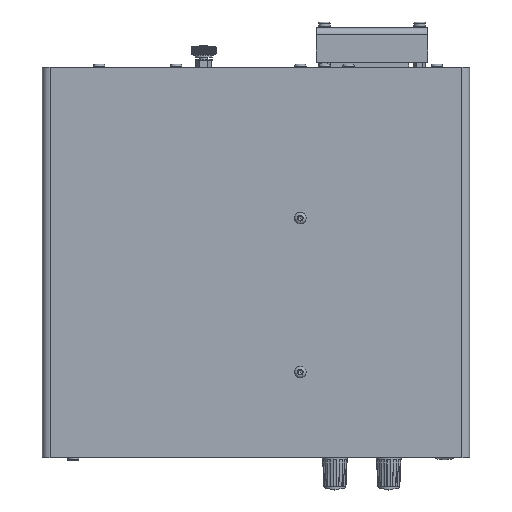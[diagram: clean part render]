
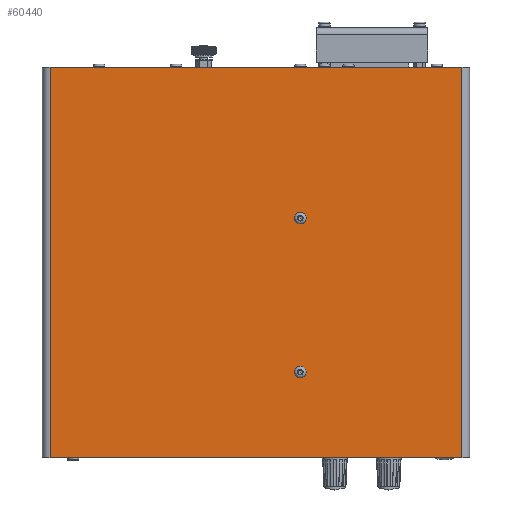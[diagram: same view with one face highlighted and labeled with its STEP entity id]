
A CAD part, top view. The second image highlights one B-rep face of the part: STEP entity #60440.
In plain terms, the highlighted planar face has unit normal (0, 0, 1).
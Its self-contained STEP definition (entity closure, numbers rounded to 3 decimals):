
#3255=FACE_BOUND('',#10944,.T.);
#3256=FACE_BOUND('',#10945,.T.);
#4689=CIRCLE('',#64868,3.);
#4693=CIRCLE('',#64874,3.);
#7288=FACE_OUTER_BOUND('',#10943,.T.);
#10943=EDGE_LOOP('',(#42855,#42856,#42857,#42858));
#10944=EDGE_LOOP('',(#42859));
#10945=EDGE_LOOP('',(#42860));
#15340=LINE('',#94087,#19887);
#15343=LINE('',#94098,#19890);
#15346=LINE('',#94107,#19893);
#15348=LINE('',#94111,#19895);
#19887=VECTOR('',#73828,10.);
#19890=VECTOR('',#73841,10.);
#19893=VECTOR('',#73852,10.);
#19895=VECTOR('',#73858,10.);
#24944=VERTEX_POINT('',#94011);
#24948=VERTEX_POINT('',#94022);
#24974=VERTEX_POINT('',#94084);
#24975=VERTEX_POINT('',#94086);
#24978=VERTEX_POINT('',#94097);
#24980=VERTEX_POINT('',#94105);
#31473=EDGE_CURVE('',#24944,#24944,#4689,.T.);
#31478=EDGE_CURVE('',#24948,#24948,#4693,.T.);
#31509=EDGE_CURVE('',#24974,#24975,#15340,.T.);
#31515=EDGE_CURVE('',#24978,#24975,#15343,.T.);
#31520=EDGE_CURVE('',#24974,#24980,#15346,.T.);
#31522=EDGE_CURVE('',#24978,#24980,#15348,.T.);
#42855=ORIENTED_EDGE('',*,*,#31520,.T.);
#42856=ORIENTED_EDGE('',*,*,#31522,.F.);
#42857=ORIENTED_EDGE('',*,*,#31515,.T.);
#42858=ORIENTED_EDGE('',*,*,#31509,.F.);
#42859=ORIENTED_EDGE('',*,*,#31473,.T.);
#42860=ORIENTED_EDGE('',*,*,#31478,.T.);
#54703=PLANE('',#64900);
#60440=ADVANCED_FACE('',(#7288,#3255,#3256),#54703,.T.);
#64868=AXIS2_PLACEMENT_3D('',#94012,#73762,#73763);
#64874=AXIS2_PLACEMENT_3D('',#94023,#73775,#73776);
#64900=AXIS2_PLACEMENT_3D('',#94110,#73856,#73857);
#73762=DIRECTION('center_axis',(0.,0.,-1.));
#73763=DIRECTION('ref_axis',(0.749,-0.663,0.));
#73775=DIRECTION('center_axis',(0.,0.,-1.));
#73776=DIRECTION('ref_axis',(-0.995,-0.095,0.));
#73828=DIRECTION('',(-1.,0.,0.));
#73841=DIRECTION('',(0.,-1.,0.));
#73852=DIRECTION('',(0.,1.,0.));
#73856=DIRECTION('center_axis',(0.,0.,1.));
#73857=DIRECTION('ref_axis',(1.,0.,0.));
#73858=DIRECTION('',(1.,0.,0.));
#94011=CARTESIAN_POINT('',(20.754,24.989,52.));
#94012=CARTESIAN_POINT('Origin',(23.,23.,52.));
#94022=CARTESIAN_POINT('',(25.986,-56.715,52.));
#94023=CARTESIAN_POINT('Origin',(23.,-57.,52.));
#94084=CARTESIAN_POINT('',(107.,-101.5,52.));
#94086=CARTESIAN_POINT('',(-107.,-101.5,52.));
#94087=CARTESIAN_POINT('',(111.,-101.5,52.));
#94097=CARTESIAN_POINT('',(-107.,101.5,52.));
#94098=CARTESIAN_POINT('',(-107.,50.75,52.));
#94105=CARTESIAN_POINT('',(107.,101.5,52.));
#94107=CARTESIAN_POINT('',(107.,-50.75,52.));
#94110=CARTESIAN_POINT('Origin',(0.,0.,
52.));
#94111=CARTESIAN_POINT('',(-111.,101.5,52.));
